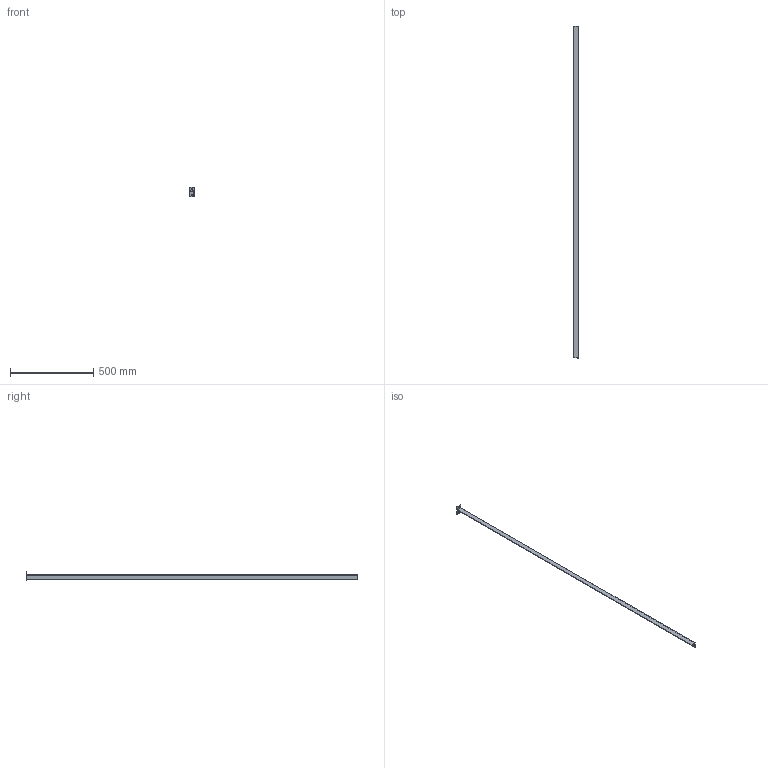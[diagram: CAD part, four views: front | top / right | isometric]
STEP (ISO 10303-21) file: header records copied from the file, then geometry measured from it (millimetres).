
FILE_DESCRIPTION(/* description */ (''),/* implementation_level */ '2;1');
FILE_NAME(/* name */ 'angle-30303t.step',/* time_stamp */ '2023-10-14T18:32:44+09:00',/* author */ (''),/* organization */ (''),/* preprocessor_version */ 'ST-DEVELOPER v20',/* originating_system */ 'Autodesk Translation Framework v12.14.0.127',/* authorisation */ '');
FILE_SCHEMA (('AUTOMOTIVE_DESIGN { 1 0 10303 214 3 1 1 }'));
Length unit declared in the file: millimetre
Products named in the file (1): angle-30*30*3t
Bounding box: 30 x 1998 x 55 mm (x, y, z)
Volume: 345793.4 mm3; surface area: 243501.7 mm2
Topology: 2 solids, 2 shells, 16 faces, 36 edges, 24 vertices
Faces by surface type: plane 14, cylinder 2
Full cylindrical faces by diameter (mm): 8 x2
Entity records: 484 total; most frequent: CARTESIAN_POINT 77, DIRECTION 74, ORIENTED_EDGE 72, EDGE_CURVE 36, LINE 32, VECTOR 32, VERTEX_POINT 24, AXIS2_PLACEMENT_3D 21
